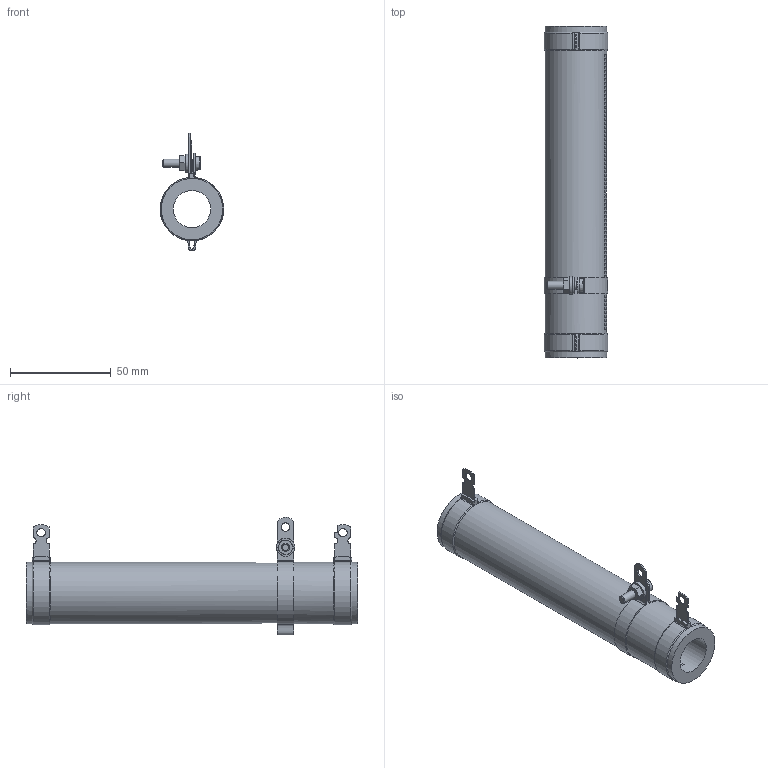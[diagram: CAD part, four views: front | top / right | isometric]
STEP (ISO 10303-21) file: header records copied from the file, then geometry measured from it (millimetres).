
FILE_DESCRIPTION(/* description */ (''),/* implementation_level */ '2;1');
FILE_NAME(/* name */ 'C:\_Vault\Dati\CATALOGO\RCA-RSA\R 25-1000\3D\RCAR 150.stp',/* time_stamp */ '2014-03-18T17:29:57+01:00',/* author */ ('stefano'),/* organization */ (''),/* preprocessor_version */ 'ST-DEVELOPER v15.2',/* originating_system */ 'Autodesk Inventor 2014',/* authorisation */ '');
FILE_SCHEMA (('AUTOMOTIVE_DESIGN { 1 0 10303 214 3 1 1 }'));
Length unit declared in the file: millimetre
Products named in the file (1): RCAR 150
Bounding box: 31.57 x 165 x 58.36 mm (x, y, z)
Volume: 78207.5 mm3; surface area: 28861.6 mm2
Topology: 1 solids, 2 shells, 475 faces, 1147 edges, 750 vertices
Faces by surface type: plane 325, cylinder 115, cone 17, torus 14, bspline 4
Full cylindrical faces by diameter (mm): 3.571 x1, 4 x2, 4.2 x5, 4.3 x1, 9 x1, 18.5 x1, 30.5 x3
Entity records: 14525 total; most frequent: CARTESIAN_POINT 2738, DIRECTION 2414, ORIENTED_EDGE 2232, EDGE_CURVE 1116, AXIS2_PLACEMENT_3D 879, VERTEX_POINT 739, LINE 656, VECTOR 656
